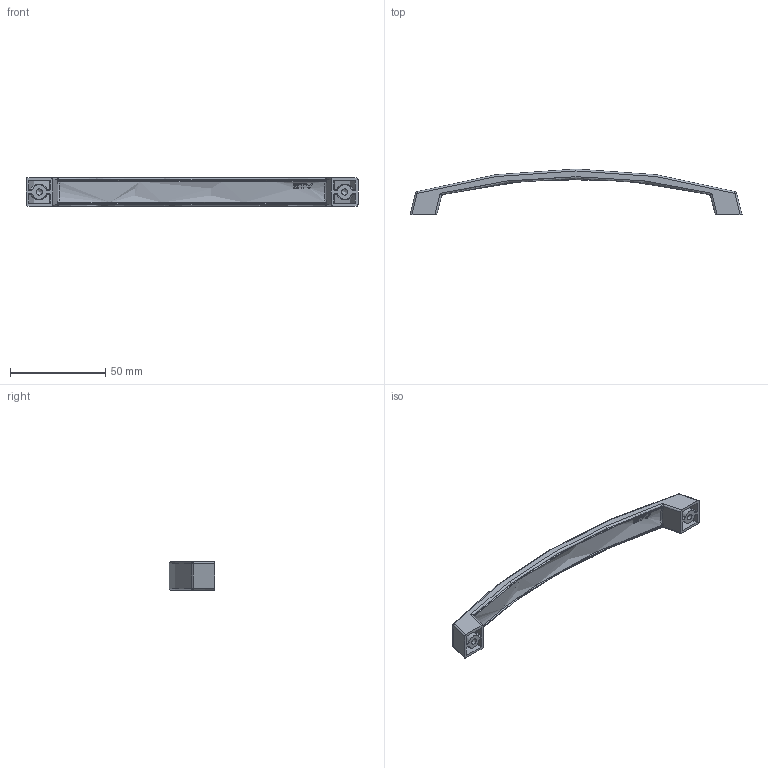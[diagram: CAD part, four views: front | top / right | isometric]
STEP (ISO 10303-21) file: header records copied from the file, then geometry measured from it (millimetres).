
FILE_DESCRIPTION(/* description */ (''),/* implementation_level */ '2;1');
FILE_NAME(/* name */ 'D:\$Workingspace\Designs\Meblowka\uchwyty\UZ-G0-\UZ-G0-160.stp',/* time_stamp */ '2019-09-19T12:05:09+02:00',/* author */ ('tomaszw'),/* organization */ (''),/* preprocessor_version */ 'ST-DEVELOPER v17.2',/* originating_system */ 'Autodesk Inventor 2019',/* authorisation */ '');
FILE_SCHEMA (('AUTOMOTIVE_DESIGN { 1 0 10303 214 3 1 1 }'));
Length unit declared in the file: millimetre
Products named in the file (1): UZ-G1-ECO-01
Bounding box: 174 x 24 x 15 mm (x, y, z)
Volume: 13593.2 mm3; surface area: 9281.2 mm2
Topology: 1 solids, 1 shells, 171 faces, 416 edges, 250 vertices
Faces by surface type: bspline 54, plane 48, cylinder 39, cone 14, sphere 8, torus 8
Full cylindrical faces by diameter (mm): 3.242 x2
Entity records: 6617 total; most frequent: CARTESIAN_POINT 2967, ORIENTED_EDGE 820, DIRECTION 634, EDGE_CURVE 410, AXIS2_PLACEMENT_3D 254, VERTEX_POINT 250, EDGE_LOOP 180, FACE_OUTER_BOUND 171
